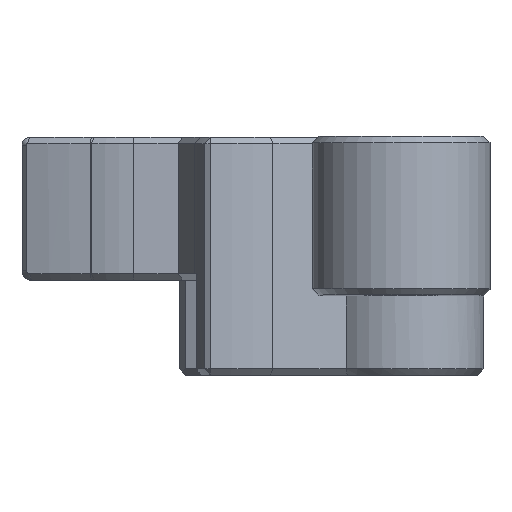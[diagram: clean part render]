
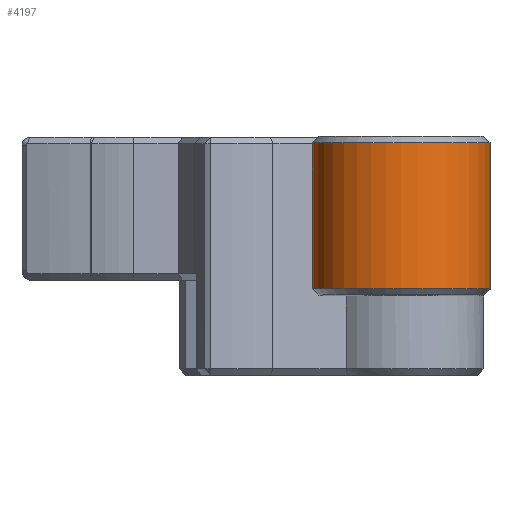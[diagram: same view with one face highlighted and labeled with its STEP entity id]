
A CAD part, top view. The second image highlights one B-rep face of the part: STEP entity #4197.
In plain terms, the highlighted cylindrical face has radius 3.556 mm (diameter 7.112 mm), a partial arc.
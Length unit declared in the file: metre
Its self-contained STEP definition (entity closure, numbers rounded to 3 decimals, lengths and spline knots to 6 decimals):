
#355=CYLINDRICAL_SURFACE('',#4695,0.003556);
#593=CIRCLE('',#4696,0.003556);
#594=CIRCLE('',#4697,0.003556);
#1072=ORIENTED_EDGE('',*,*,#2332,.F.);
#1073=ORIENTED_EDGE('',*,*,#2336,.T.);
#1074=ORIENTED_EDGE('',*,*,#2325,.T.);
#1075=ORIENTED_EDGE('',*,*,#2337,.T.);
#2325=EDGE_CURVE('',#2930,#2931,#3114,.T.);
#2332=EDGE_CURVE('',#2936,#2937,#3121,.T.);
#2336=EDGE_CURVE('',#2936,#2930,#593,.T.);
#2337=EDGE_CURVE('',#2931,#2937,#594,.F.);
#2930=VERTEX_POINT('',#7136);
#2931=VERTEX_POINT('',#7137);
#2936=VERTEX_POINT('',#7149);
#2937=VERTEX_POINT('',#7151);
#3114=LINE('',#7135,#3353);
#3121=LINE('',#7150,#3360);
#3353=VECTOR('',#5570,1.);
#3360=VECTOR('',#5579,1.);
#3577=EDGE_LOOP('',(#1072,#1073,#1074,#1075));
#3864=FACE_BOUND('',#3577,.T.);
#4197=ADVANCED_FACE('',(#3864),#355,.T.);
#4695=AXIS2_PLACEMENT_3D('',#7158,#5587,#5588);
#4696=AXIS2_PLACEMENT_3D('',#7159,#5589,#5590);
#4697=AXIS2_PLACEMENT_3D('',#7160,#5591,#5592);
#5570=DIRECTION('',(0.,1.,0.));
#5579=DIRECTION('',(0.,1.,0.));
#5587=DIRECTION('',(0.,1.,0.));
#5588=DIRECTION('',(0.,0.,1.));
#5589=DIRECTION('',(0.,1.,0.));
#5590=DIRECTION('',(0.,0.,1.));
#5591=DIRECTION('',(0.,1.,0.));
#5592=DIRECTION('',(0.,0.,1.));
#7135=CARTESIAN_POINT('',(0.003556,-0.00635,0.02159));
#7136=CARTESIAN_POINT('',(0.003556,-0.006096,0.02159));
#7137=CARTESIAN_POINT('',(0.003556,-0.000254,0.02159));
#7149=CARTESIAN_POINT('',(-0.003556,-0.006096,0.02159));
#7150=CARTESIAN_POINT('',(-0.003556,-0.00635,0.02159));
#7151=CARTESIAN_POINT('',(-0.003556,-0.000254,0.02159));
#7158=CARTESIAN_POINT('',(0.,-0.00635,0.02159));
#7159=CARTESIAN_POINT('',(0.,-0.006096,0.02159));
#7160=CARTESIAN_POINT('',(0.,-0.000254,0.02159));
